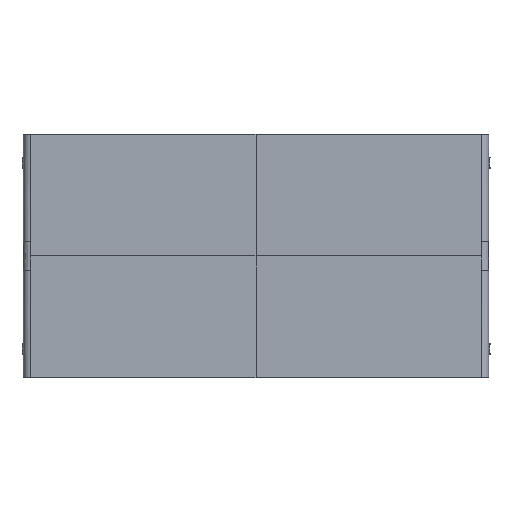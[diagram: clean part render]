
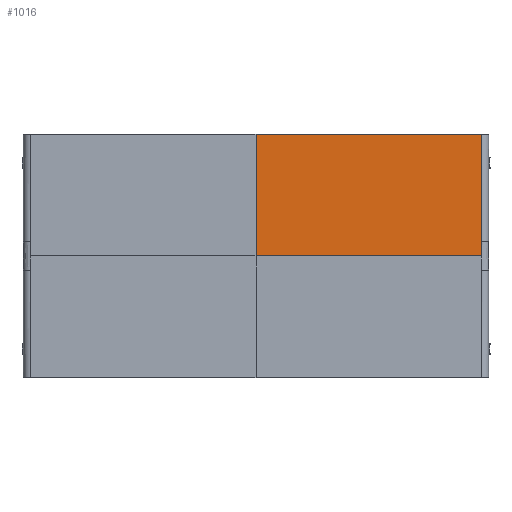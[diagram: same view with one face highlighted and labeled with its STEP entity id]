
A CAD part, top view. The second image highlights one B-rep face of the part: STEP entity #1016.
In plain terms, the highlighted planar face has unit normal (0, 0, 1).
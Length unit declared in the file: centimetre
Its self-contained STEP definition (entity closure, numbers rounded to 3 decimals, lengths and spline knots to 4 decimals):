
#153=PLANE($,#5446);
#580=B_SPLINE_CURVE_WITH_KNOTS($,1,(#7962,#7963),.UNSPECIFIED.,.F.,.F.,(2,
2),(575.,1160.),.UNSPECIFIED.);
#590=B_SPLINE_CURVE_WITH_KNOTS($,1,(#7986,#7987),.UNSPECIFIED.,.F.,.F.,(2,
2),(-63.,0.),.UNSPECIFIED.);
#591=B_SPLINE_CURVE_WITH_KNOTS($,1,(#7988,#7989),.UNSPECIFIED.,.F.,.F.,(2,
2),(26.,60.),.UNSPECIFIED.);
#595=B_SPLINE_CURVE_WITH_KNOTS($,1,(#8008,#8009),.UNSPECIFIED.,.F.,.F.,(2,
2),(-8.,-4.),.UNSPECIFIED.);
#614=B_SPLINE_CURVE_WITH_KNOTS($,1,(#8046,#8047),.UNSPECIFIED.,.F.,.F.,(2,
2),(0.,300.),.UNSPECIFIED.);
#1016=ADVANCED_FACE($,(#1378),#153,.T.);
#1378=FACE_OUTER_BOUND($,#1740,.T.);
#1740=EDGE_LOOP($,(#2890,#2891,#2892,#2893,#2894));
#2890=ORIENTED_EDGE($,*,*,#3973,.T.);
#2891=ORIENTED_EDGE($,*,*,#3982,.F.);
#2892=ORIENTED_EDGE($,*,*,#4001,.F.);
#2893=ORIENTED_EDGE($,*,*,#3963,.F.);
#2894=ORIENTED_EDGE($,*,*,#3974,.F.);
#3963=EDGE_CURVE($,#4579,#4574,#580,.T.);
#3973=EDGE_CURVE($,#4588,#4589,#590,.T.);
#3974=EDGE_CURVE($,#4588,#4579,#591,.T.);
#3982=EDGE_CURVE($,#4597,#4589,#595,.T.);
#4001=EDGE_CURVE($,#4574,#4597,#614,.T.);
#4574=VERTEX_POINT($,#8248);
#4579=VERTEX_POINT($,#8253);
#4588=VERTEX_POINT($,#8262);
#4589=VERTEX_POINT($,#8263);
#4597=VERTEX_POINT($,#8271);
#5446=AXIS2_PLACEMENT_3D($,#8152,#5639,$);
#5639=DIRECTION($,(0.,0.,1.));
#7962=CARTESIAN_POINT($,(62.2391,67.1652,31.4));
#7963=CARTESIAN_POINT($,(125.2391,67.1652,31.4));
#7986=CARTESIAN_POINT($,(62.2391,33.1652,31.4));
#7987=CARTESIAN_POINT($,(125.2391,33.1652,31.4));
#7988=CARTESIAN_POINT($,(62.2391,33.1652,31.4));
#7989=CARTESIAN_POINT($,(62.2391,67.1652,31.4));
#8008=CARTESIAN_POINT($,(125.2391,37.1652,31.4));
#8009=CARTESIAN_POINT($,(125.2391,33.1652,31.4));
#8046=CARTESIAN_POINT($,(125.2391,67.1652,31.4));
#8047=CARTESIAN_POINT($,(125.2391,37.1652,31.4));
#8152=CARTESIAN_POINT($,(62.2391,67.1652,31.4));
#8248=CARTESIAN_POINT($,(125.2391,67.1652,31.4));
#8253=CARTESIAN_POINT($,(62.2391,67.1652,31.4));
#8262=CARTESIAN_POINT($,(62.2391,33.1652,31.4));
#8263=CARTESIAN_POINT($,(125.2391,33.1652,31.4));
#8271=CARTESIAN_POINT($,(125.2391,37.1652,31.4));
